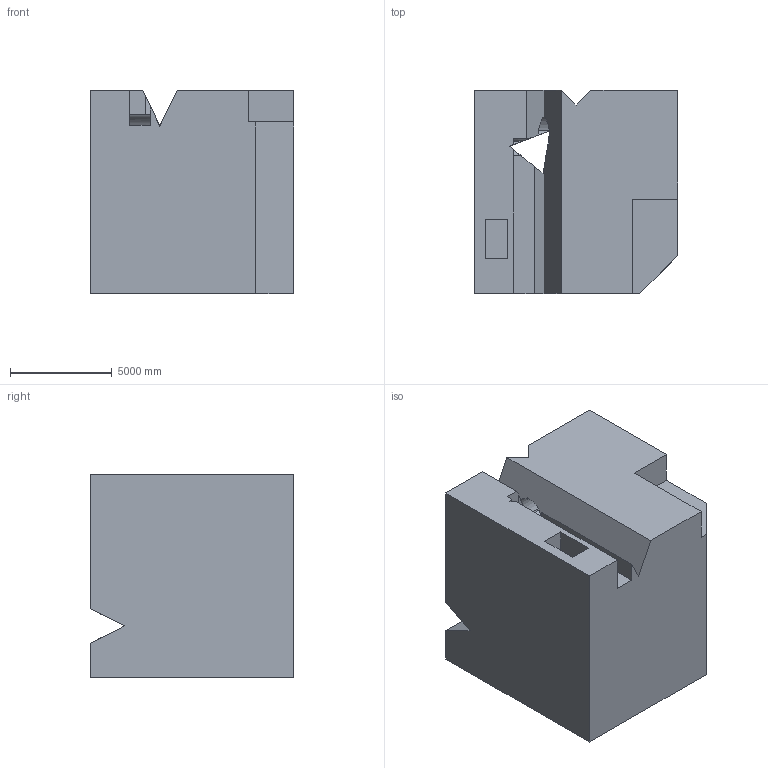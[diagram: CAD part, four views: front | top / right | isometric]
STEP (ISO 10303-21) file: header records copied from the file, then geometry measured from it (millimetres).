
FILE_DESCRIPTION (( 'STEP AP203' ), '1' );
FILE_NAME ('1800.STEP', '2022-08-19T12:59:56', ( 'user' ), ( '' ), 'SwSTEP 2.0', 'SolidWorks 2021', '' );
FILE_SCHEMA (( 'CONFIG_CONTROL_DESIGN' ));
Length unit declared in the file: centimetre
Products named in the file (1): 1800
Bounding box: 10000 x 10000 x 10000 mm (x, y, z)
Volume: 865161079502.9 mm3; surface area: 787122205.5 mm2
Topology: 1 solids, 1 shells, 52 faces, 150 edges, 100 vertices
Faces by surface type: plane 44, cylinder 8
Entity records: 1771 total; most frequent: CARTESIAN_POINT 366, ORIENTED_EDGE 300, DIRECTION 247, EDGE_CURVE 150, VECTOR 117, LINE 117, VERTEX_POINT 100, AXIS2_PLACEMENT_3D 65
